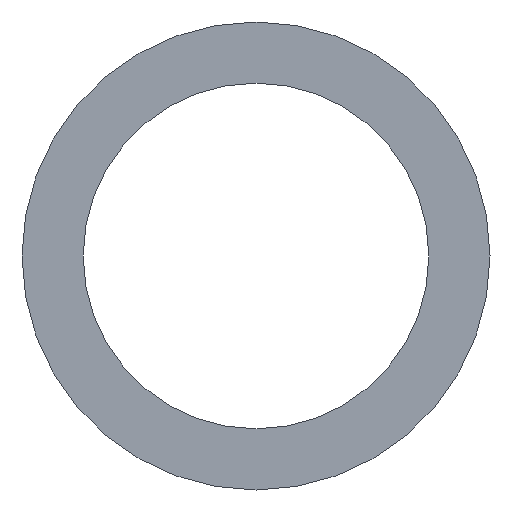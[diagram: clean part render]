
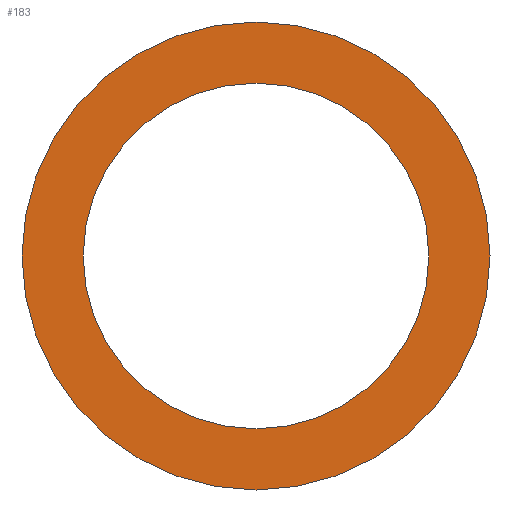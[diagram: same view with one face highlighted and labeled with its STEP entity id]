
A CAD part, left-side view. The second image highlights one B-rep face of the part: STEP entity #183.
In plain terms, the highlighted planar face has unit normal (-1, 0, 0).
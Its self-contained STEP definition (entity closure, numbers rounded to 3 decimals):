
#22 = VERTEX_POINT('',#23);
#23 = CARTESIAN_POINT('',(-3.092,6.5,12.));
#32 = CYLINDRICAL_SURFACE('',#33,6.5);
#33 = AXIS2_PLACEMENT_3D('',#34,#35,#36);
#34 = CARTESIAN_POINT('',(-3.092,0.,12.));
#35 = DIRECTION('',(-1.,-0.,-0.));
#36 = DIRECTION('',(0.,1.,0.));
#79 = EDGE_CURVE('',#22,#22,#80,.T.);
#80 = SURFACE_CURVE('',#81,(#86,#93),.PCURVE_S1.);
#81 = CIRCLE('',#82,6.5);
#82 = AXIS2_PLACEMENT_3D('',#83,#84,#85);
#83 = CARTESIAN_POINT('',(-3.092,0.,12.));
#84 = DIRECTION('',(1.,0.,0.));
#85 = DIRECTION('',(0.,1.,0.));
#86 = PCURVE('',#32,#87);
#87 = DEFINITIONAL_REPRESENTATION('',(#88),#92);
#88 = LINE('',#89,#90);
#89 = CARTESIAN_POINT('',(-0.,0.));
#90 = VECTOR('',#91,1.);
#91 = DIRECTION('',(-1.,0.));
#92 = ( GEOMETRIC_REPRESENTATION_CONTEXT(2) 
PARAMETRIC_REPRESENTATION_CONTEXT() REPRESENTATION_CONTEXT('2D SPACE',''
  ) );
#93 = PCURVE('',#94,#99);
#94 = PLANE('',#95);
#95 = AXIS2_PLACEMENT_3D('',#96,#97,#98);
#96 = CARTESIAN_POINT('',(-3.092,0.,12.));
#97 = DIRECTION('',(1.,0.,0.));
#98 = DIRECTION('',(-0.,0.,1.));
#99 = DEFINITIONAL_REPRESENTATION('',(#100),#104);
#100 = CIRCLE('',#101,6.5);
#101 = AXIS2_PLACEMENT_2D('',#102,#103);
#102 = CARTESIAN_POINT('',(0.,0.));
#103 = DIRECTION('',(0.,-1.));
#104 = ( GEOMETRIC_REPRESENTATION_CONTEXT(2) 
PARAMETRIC_REPRESENTATION_CONTEXT() REPRESENTATION_CONTEXT('2D SPACE',''
  ) );
#110 = VERTEX_POINT('',#111);
#111 = CARTESIAN_POINT('',(-3.092,4.8,12.));
#120 = CYLINDRICAL_SURFACE('',#121,4.8);
#121 = AXIS2_PLACEMENT_3D('',#122,#123,#124);
#122 = CARTESIAN_POINT('',(-3.092,0.,12.));
#123 = DIRECTION('',(-1.,-0.,-0.));
#124 = DIRECTION('',(0.,1.,0.));
#162 = EDGE_CURVE('',#110,#110,#163,.T.);
#163 = SURFACE_CURVE('',#164,(#169,#176),.PCURVE_S1.);
#164 = CIRCLE('',#165,4.8);
#165 = AXIS2_PLACEMENT_3D('',#166,#167,#168);
#166 = CARTESIAN_POINT('',(-3.092,0.,12.));
#167 = DIRECTION('',(1.,0.,0.));
#168 = DIRECTION('',(0.,1.,0.));
#169 = PCURVE('',#120,#170);
#170 = DEFINITIONAL_REPRESENTATION('',(#171),#175);
#171 = LINE('',#172,#173);
#172 = CARTESIAN_POINT('',(-0.,0.));
#173 = VECTOR('',#174,1.);
#174 = DIRECTION('',(-1.,0.));
#175 = ( GEOMETRIC_REPRESENTATION_CONTEXT(2) 
PARAMETRIC_REPRESENTATION_CONTEXT() REPRESENTATION_CONTEXT('2D SPACE',''
  ) );
#176 = PCURVE('',#94,#177);
#177 = DEFINITIONAL_REPRESENTATION('',(#178),#182);
#178 = CIRCLE('',#179,4.8);
#179 = AXIS2_PLACEMENT_2D('',#180,#181);
#180 = CARTESIAN_POINT('',(0.,0.));
#181 = DIRECTION('',(0.,-1.));
#182 = ( GEOMETRIC_REPRESENTATION_CONTEXT(2) 
PARAMETRIC_REPRESENTATION_CONTEXT() REPRESENTATION_CONTEXT('2D SPACE',''
  ) );
#183 = ADVANCED_FACE('',(#184,#187),#94,.F.);
#184 = FACE_BOUND('',#185,.F.);
#185 = EDGE_LOOP('',(#186));
#186 = ORIENTED_EDGE('',*,*,#79,.T.);
#187 = FACE_BOUND('',#188,.F.);
#188 = EDGE_LOOP('',(#189));
#189 = ORIENTED_EDGE('',*,*,#162,.F.);
